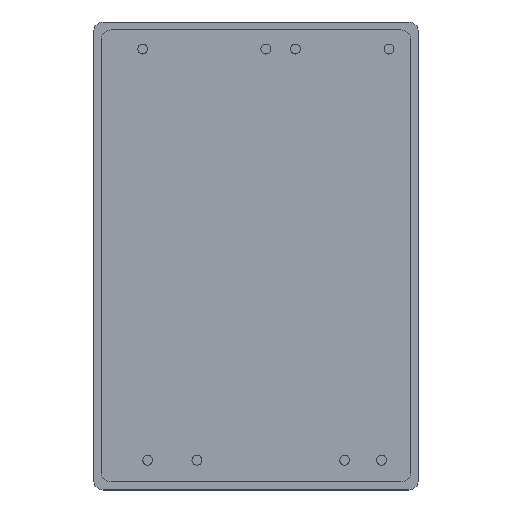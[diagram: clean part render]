
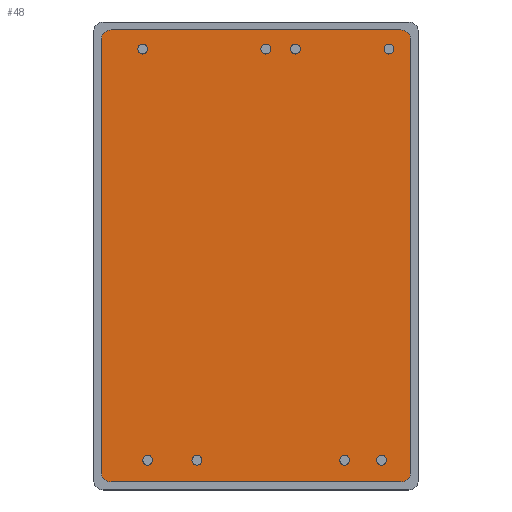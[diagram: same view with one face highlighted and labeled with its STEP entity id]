
A CAD part, top view. The second image highlights one B-rep face of the part: STEP entity #48.
In plain terms, the highlighted planar face has unit normal (0, 0, 1).
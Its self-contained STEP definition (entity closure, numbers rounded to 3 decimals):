
#48=ADVANCED_FACE('',(#91,#93,#95,#97,#99,#101,#103,#105,#107),#109,.T.);
#91=FACE_BOUND('',#92,.T.);
#92=EDGE_LOOP('',(#426,#427,#428,#429,#430,#431,#432,#433));
#93=FACE_BOUND('',#94,.T.);
#94=EDGE_LOOP('',(#434));
#95=FACE_BOUND('',#96,.T.);
#96=EDGE_LOOP('',(#435));
#97=FACE_BOUND('',#98,.T.);
#98=EDGE_LOOP('',(#436));
#99=FACE_BOUND('',#100,.T.);
#100=EDGE_LOOP('',(#437));
#101=FACE_BOUND('',#102,.T.);
#102=EDGE_LOOP('',(#438));
#103=FACE_BOUND('',#104,.T.);
#104=EDGE_LOOP('',(#439));
#105=FACE_BOUND('',#106,.T.);
#106=EDGE_LOOP('',(#440));
#107=FACE_BOUND('',#108,.T.);
#108=EDGE_LOOP('',(#441));
#109=PLANE('',#110);
#110=AXIS2_PLACEMENT_3D('',#111,#112,#113);
#111=CARTESIAN_POINT('',(0.,0.,10.1));
#112=DIRECTION('',(0.,0.,1.));
#113=DIRECTION('',(0.,1.,0.));
#426=ORIENTED_EDGE('',*,*,#578,.F.);
#427=ORIENTED_EDGE('',*,*,#579,.T.);
#428=ORIENTED_EDGE('',*,*,#580,.F.);
#429=ORIENTED_EDGE('',*,*,#581,.T.);
#430=ORIENTED_EDGE('',*,*,#582,.F.);
#431=ORIENTED_EDGE('',*,*,#583,.T.);
#432=ORIENTED_EDGE('',*,*,#584,.F.);
#433=ORIENTED_EDGE('',*,*,#585,.T.);
#434=ORIENTED_EDGE('',*,*,#586,.F.);
#435=ORIENTED_EDGE('',*,*,#587,.F.);
#436=ORIENTED_EDGE('',*,*,#588,.F.);
#437=ORIENTED_EDGE('',*,*,#589,.F.);
#438=ORIENTED_EDGE('',*,*,#590,.F.);
#439=ORIENTED_EDGE('',*,*,#591,.F.);
#440=ORIENTED_EDGE('',*,*,#592,.F.);
#441=ORIENTED_EDGE('',*,*,#593,.F.);
#578=EDGE_CURVE('',#654,#655,#656,.F.);
#579=EDGE_CURVE('',#654,#657,#658,.T.);
#580=EDGE_CURVE('',#659,#657,#660,.F.);
#581=EDGE_CURVE('',#659,#661,#662,.T.);
#582=EDGE_CURVE('',#663,#661,#664,.F.);
#583=EDGE_CURVE('',#663,#665,#666,.T.);
#584=EDGE_CURVE('',#667,#665,#668,.F.);
#585=EDGE_CURVE('',#667,#655,#669,.T.);
#586=EDGE_CURVE('',#670,#670,#671,.T.);
#587=EDGE_CURVE('',#672,#672,#673,.T.);
#588=EDGE_CURVE('',#674,#674,#675,.T.);
#589=EDGE_CURVE('',#676,#676,#677,.T.);
#590=EDGE_CURVE('',#678,#678,#679,.T.);
#591=EDGE_CURVE('',#680,#680,#681,.T.);
#592=EDGE_CURVE('',#682,#682,#683,.T.);
#593=EDGE_CURVE('',#684,#684,#685,.T.);
#654=VERTEX_POINT('',#782);
#655=VERTEX_POINT('',#783);
#656=CIRCLE('',#784,1.);
#657=VERTEX_POINT('',#788);
#658=LINE('',#789,#790);
#659=VERTEX_POINT('',#792);
#660=CIRCLE('',#793,1.);
#661=VERTEX_POINT('',#797);
#662=LINE('',#798,#799);
#663=VERTEX_POINT('',#801);
#664=CIRCLE('',#802,1.);
#665=VERTEX_POINT('',#806);
#666=LINE('',#807,#808);
#667=VERTEX_POINT('',#810);
#668=CIRCLE('',#811,1.);
#669=LINE('',#815,#816);
#670=VERTEX_POINT('',#818);
#671=CIRCLE('',#819,0.5);
#672=VERTEX_POINT('',#823);
#673=CIRCLE('',#824,0.5);
#674=VERTEX_POINT('',#828);
#675=CIRCLE('',#829,0.5);
#676=VERTEX_POINT('',#833);
#677=CIRCLE('',#834,0.5);
#678=VERTEX_POINT('',#838);
#679=CIRCLE('',#839,0.5);
#680=VERTEX_POINT('',#843);
#681=CIRCLE('',#844,0.5);
#682=VERTEX_POINT('',#848);
#683=CIRCLE('',#849,0.5);
#684=VERTEX_POINT('',#853);
#685=CIRCLE('',#854,0.5);
#782=CARTESIAN_POINT('',(15.7,-21.95,10.1));
#783=CARTESIAN_POINT('',(14.7,-22.95,10.1));
#784=AXIS2_PLACEMENT_3D('',#785,#786,#787);
#785=CARTESIAN_POINT('',(14.7,-21.95,10.1));
#786=DIRECTION('',(0.,0.,1.));
#787=DIRECTION('',(0.,-1.,0.));
#788=CARTESIAN_POINT('',(15.7,21.95,10.1));
#789=CARTESIAN_POINT('',(15.7,-21.95,10.1));
#790=VECTOR('',#791,1.);
#791=DIRECTION('',(0.,1.,0.));
#792=CARTESIAN_POINT('',(14.7,22.95,10.1));
#793=AXIS2_PLACEMENT_3D('',#794,#795,#796);
#794=CARTESIAN_POINT('',(14.7,21.95,10.1));
#795=DIRECTION('',(0.,0.,1.));
#796=DIRECTION('',(1.,0.,0.));
#797=CARTESIAN_POINT('',(-14.7,22.95,10.1));
#798=CARTESIAN_POINT('',(14.7,22.95,10.1));
#799=VECTOR('',#800,1.);
#800=DIRECTION('',(-1.,0.,0.));
#801=CARTESIAN_POINT('',(-15.7,21.95,10.1));
#802=AXIS2_PLACEMENT_3D('',#803,#804,#805);
#803=CARTESIAN_POINT('',(-14.7,21.95,10.1));
#804=DIRECTION('',(0.,0.,1.));
#805=DIRECTION('',(0.,1.,0.));
#806=CARTESIAN_POINT('',(-15.7,-21.95,10.1));
#807=CARTESIAN_POINT('',(-15.7,21.95,10.1));
#808=VECTOR('',#809,1.);
#809=DIRECTION('',(0.,-1.,0.));
#810=CARTESIAN_POINT('',(-14.7,-22.95,10.1));
#811=AXIS2_PLACEMENT_3D('',#812,#813,#814);
#812=CARTESIAN_POINT('',(-14.7,-21.95,10.1));
#813=DIRECTION('',(0.,0.,1.));
#814=DIRECTION('',(-1.,0.,0.));
#815=CARTESIAN_POINT('',(-14.7,-22.95,10.1));
#816=VECTOR('',#817,1.);
#817=DIRECTION('',(1.,0.,0.));
#818=CARTESIAN_POINT('',(9.,-20.25,10.1));
#819=AXIS2_PLACEMENT_3D('',#820,#821,#822);
#820=CARTESIAN_POINT('',(9.,-20.75,10.1));
#821=DIRECTION('',(0.,0.,1.));
#822=DIRECTION('',(0.,1.,0.));
#823=CARTESIAN_POINT('',(-6.,-20.25,10.1));
#824=AXIS2_PLACEMENT_3D('',#825,#826,#827);
#825=CARTESIAN_POINT('',(-6.,-20.75,10.1));
#826=DIRECTION('',(0.,0.,1.));
#827=DIRECTION('',(0.,1.,0.));
#828=CARTESIAN_POINT('',(-11.,-20.25,10.1));
#829=AXIS2_PLACEMENT_3D('',#830,#831,#832);
#830=CARTESIAN_POINT('',(-11.,-20.75,10.1));
#831=DIRECTION('',(0.,0.,1.));
#832=DIRECTION('',(0.,1.,0.));
#833=CARTESIAN_POINT('',(13.5,21.5,10.1));
#834=AXIS2_PLACEMENT_3D('',#835,#836,#837);
#835=CARTESIAN_POINT('',(13.5,21.,10.1));
#836=DIRECTION('',(0.,0.,1.));
#837=DIRECTION('',(0.,1.,0.));
#838=CARTESIAN_POINT('',(4.,21.5,10.1));
#839=AXIS2_PLACEMENT_3D('',#840,#841,#842);
#840=CARTESIAN_POINT('',(4.,21.,10.1));
#841=DIRECTION('',(0.,0.,1.));
#842=DIRECTION('',(0.,1.,0.));
#843=CARTESIAN_POINT('',(-11.5,21.5,10.1));
#844=AXIS2_PLACEMENT_3D('',#845,#846,#847);
#845=CARTESIAN_POINT('',(-11.5,21.,10.1));
#846=DIRECTION('',(0.,0.,1.));
#847=DIRECTION('',(0.,1.,0.));
#848=CARTESIAN_POINT('',(12.75,-20.25,10.1));
#849=AXIS2_PLACEMENT_3D('',#850,#851,#852);
#850=CARTESIAN_POINT('',(12.75,-20.75,10.1));
#851=DIRECTION('',(0.,0.,1.));
#852=DIRECTION('',(0.,1.,0.));
#853=CARTESIAN_POINT('',(1.,21.5,10.1));
#854=AXIS2_PLACEMENT_3D('',#855,#856,#857);
#855=CARTESIAN_POINT('',(1.,21.,10.1));
#856=DIRECTION('',(0.,0.,1.));
#857=DIRECTION('',(0.,1.,0.));
